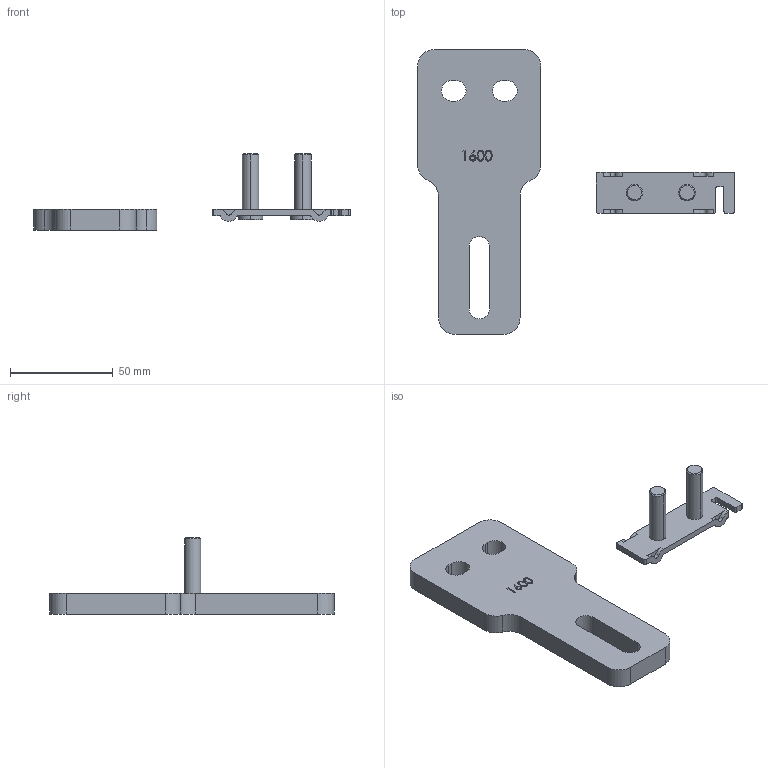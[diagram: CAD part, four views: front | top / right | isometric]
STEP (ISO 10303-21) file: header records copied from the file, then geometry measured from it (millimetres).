
FILE_DESCRIPTION (( 'STEP AP214' ), '1' );
FILE_NAME ('04684.STEP', '2017-11-21T08:59:04', ( '' ), ( '' ), 'SwSTEP 2.0', 'SolidWorks 2015', '' );
FILE_SCHEMA (( 'AUTOMOTIVE_DESIGN' ));
Length unit declared in the file: millimetre
Products named in the file (3): 04684; 04684-1
Assembly tree (2 placements, depth 2):
  04684
    04684
    04684-1
Bounding box: 153.76 x 138.3 x 37 mm (x, y, z)
Volume: 68365.6 mm3; surface area: 22420 mm2
Topology: 2 solids, 2 shells, 139 faces, 368 edges, 244 vertices
Faces by surface type: cylinder 56, plane 52, bspline 27, cone 4
Entity records: 6382 total; most frequent: CARTESIAN_POINT 2879, ORIENTED_EDGE 736, DIRECTION 664, EDGE_CURVE 368, VERTEX_POINT 244, AXIS2_PLACEMENT_3D 233, LINE 198, VECTOR 198
